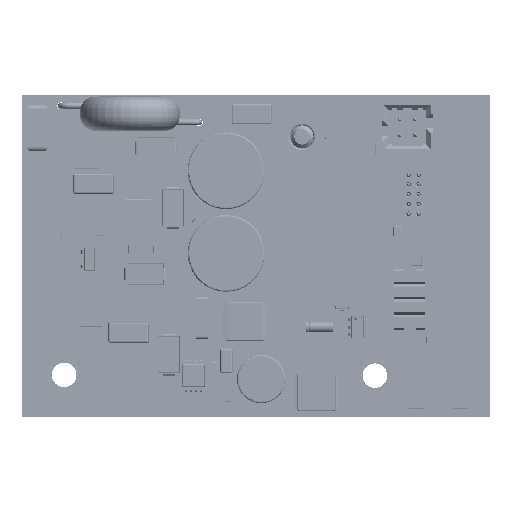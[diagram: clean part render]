
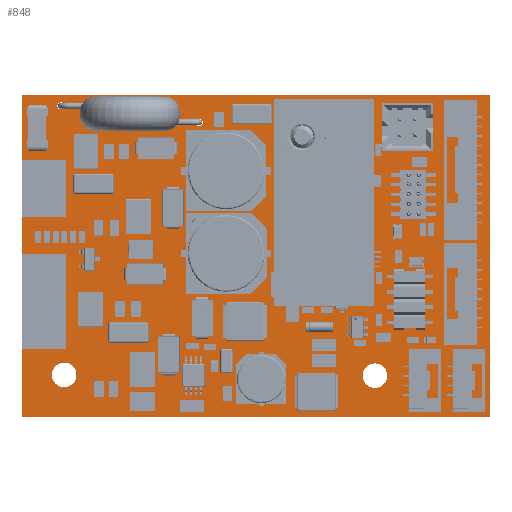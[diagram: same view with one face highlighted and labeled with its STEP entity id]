
A CAD part, top view. The second image highlights one B-rep face of the part: STEP entity #848.
In plain terms, the highlighted planar face has unit normal (0, 0, 1).
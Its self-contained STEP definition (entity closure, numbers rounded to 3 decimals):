
#73=DIRECTION('',(0.,1.,0.));
#74=VECTOR('',#73,42.);
#75=CARTESIAN_POINT('',(61.,0.,1.6));
#76=LINE('',#75,#74);
#80=DIRECTION('',(1.,0.,0.));
#81=VECTOR('',#80,61.);
#82=CARTESIAN_POINT('',(0.,0.,1.6));
#83=LINE('',#82,#81);
#87=DIRECTION('',(0.,-1.,0.));
#88=VECTOR('',#87,42.);
#89=CARTESIAN_POINT('',(0.,42.,1.6));
#90=LINE('',#89,#88);
#94=DIRECTION('',(-1.,0.,0.));
#95=VECTOR('',#94,61.);
#96=CARTESIAN_POINT('',(61.,42.,1.6));
#97=LINE('',#96,#95);
#101=CARTESIAN_POINT('',(3.412,13.821,1.6));
#102=DIRECTION('',(0.,0.,1.));
#103=DIRECTION('',(1.,0.,0.));
#104=AXIS2_PLACEMENT_3D('',#101,#102,#103);
#109=CARTESIAN_POINT('',(3.412,13.821,1.6));
#110=DIRECTION('',(0.,0.,1.));
#111=DIRECTION('',(-1.,0.,0.));
#112=AXIS2_PLACEMENT_3D('',#109,#110,#111);
#117=CARTESIAN_POINT('',(3.412,11.321,1.6));
#118=DIRECTION('',(0.,0.,1.));
#119=DIRECTION('',(1.,0.,0.));
#120=AXIS2_PLACEMENT_3D('',#117,#118,#119);
#125=CARTESIAN_POINT('',(3.412,11.321,1.6));
#126=DIRECTION('',(0.,0.,1.));
#127=DIRECTION('',(-1.,0.,0.));
#128=AXIS2_PLACEMENT_3D('',#125,#126,#127);
#133=CARTESIAN_POINT('',(3.387,30.996,1.6));
#134=DIRECTION('',(0.,0.,1.));
#135=DIRECTION('',(1.,0.,0.));
#136=AXIS2_PLACEMENT_3D('',#133,#134,#135);
#141=CARTESIAN_POINT('',(3.387,30.996,1.6));
#142=DIRECTION('',(0.,0.,1.));
#143=DIRECTION('',(-1.,0.,0.));
#144=AXIS2_PLACEMENT_3D('',#141,#142,#143);
#149=CARTESIAN_POINT('',(3.412,16.321,1.6));
#150=DIRECTION('',(0.,0.,1.));
#151=DIRECTION('',(1.,0.,0.));
#152=AXIS2_PLACEMENT_3D('',#149,#150,#151);
#157=CARTESIAN_POINT('',(3.412,16.321,1.6));
#158=DIRECTION('',(0.,0.,1.));
#159=DIRECTION('',(-1.,0.,0.));
#160=AXIS2_PLACEMENT_3D('',#157,#158,#159);
#165=CARTESIAN_POINT('',(3.387,28.496,1.6));
#166=DIRECTION('',(0.,0.,1.));
#167=DIRECTION('',(1.,0.,0.));
#168=AXIS2_PLACEMENT_3D('',#165,#166,#167);
#173=CARTESIAN_POINT('',(3.387,28.496,1.6));
#174=DIRECTION('',(0.,0.,1.));
#175=DIRECTION('',(-1.,0.,0.));
#176=AXIS2_PLACEMENT_3D('',#173,#174,#175);
#181=CARTESIAN_POINT('',(3.412,18.821,1.6));
#182=DIRECTION('',(0.,0.,1.));
#183=DIRECTION('',(1.,0.,0.));
#184=AXIS2_PLACEMENT_3D('',#181,#182,#183);
#189=CARTESIAN_POINT('',(3.412,18.821,1.6));
#190=DIRECTION('',(0.,0.,1.));
#191=DIRECTION('',(-1.,0.,0.));
#192=AXIS2_PLACEMENT_3D('',#189,#190,#191);
#197=CARTESIAN_POINT('',(46.,5.4,1.6));
#198=DIRECTION('',(0.,0.,1.));
#199=DIRECTION('',(1.,0.,0.));
#200=AXIS2_PLACEMENT_3D('',#197,#198,#199);
#205=CARTESIAN_POINT('',(46.,5.4,1.6));
#206=DIRECTION('',(0.,0.,1.));
#207=DIRECTION('',(-1.,0.,0.));
#208=AXIS2_PLACEMENT_3D('',#205,#206,#207);
#213=CARTESIAN_POINT('',(5.5,5.5,1.6));
#214=DIRECTION('',(0.,0.,1.));
#215=DIRECTION('',(1.,0.,0.));
#216=AXIS2_PLACEMENT_3D('',#213,#214,#215);
#221=CARTESIAN_POINT('',(5.5,5.5,1.6));
#222=DIRECTION('',(0.,0.,1.));
#223=DIRECTION('',(-1.,0.,0.));
#224=AXIS2_PLACEMENT_3D('',#221,#222,#223);
#229=CARTESIAN_POINT('',(5.077,40.564,1.6));
#230=DIRECTION('',(0.,0.,1.));
#231=DIRECTION('',(1.,0.,0.));
#232=AXIS2_PLACEMENT_3D('',#229,#230,#231);
#237=CARTESIAN_POINT('',(5.077,40.564,1.6));
#238=DIRECTION('',(0.,0.,1.));
#239=DIRECTION('',(-1.,0.,0.));
#240=AXIS2_PLACEMENT_3D('',#237,#238,#239);
#245=CARTESIAN_POINT('',(36.5,36.5,1.6));
#246=DIRECTION('',(0.,0.,1.));
#247=DIRECTION('',(1.,0.,0.));
#248=AXIS2_PLACEMENT_3D('',#245,#246,#247);
#253=CARTESIAN_POINT('',(36.5,36.5,1.6));
#254=DIRECTION('',(0.,0.,1.));
#255=DIRECTION('',(-1.,0.,0.));
#256=AXIS2_PLACEMENT_3D('',#253,#254,#255);
#261=CARTESIAN_POINT('',(23.077,38.414,1.6));
#262=DIRECTION('',(0.,0.,1.));
#263=DIRECTION('',(1.,0.,0.));
#264=AXIS2_PLACEMENT_3D('',#261,#262,#263);
#269=CARTESIAN_POINT('',(23.077,38.414,1.6));
#270=DIRECTION('',(0.,0.,1.));
#271=DIRECTION('',(-1.,0.,0.));
#272=AXIS2_PLACEMENT_3D('',#269,#270,#271);
#607=CARTESIAN_POINT('',(61.,0.,1.6));
#609=VERTEX_POINT('',#607);
#611=CARTESIAN_POINT('',(61.,42.,1.6));
#612=VERTEX_POINT('',#611);
#615=CARTESIAN_POINT('',(0.,42.,1.6));
#616=VERTEX_POINT('',#615);
#619=CARTESIAN_POINT('',(0.,0.,1.6));
#620=VERTEX_POINT('',#619);
#623=CARTESIAN_POINT('',(2.904,13.821,1.6));
#625=VERTEX_POINT('',#623);
#627=CARTESIAN_POINT('',(3.92,13.821,1.6));
#628=VERTEX_POINT('',#627);
#631=CARTESIAN_POINT('',(2.904,11.321,1.6));
#633=VERTEX_POINT('',#631);
#635=CARTESIAN_POINT('',(3.92,11.321,1.6));
#636=VERTEX_POINT('',#635);
#639=CARTESIAN_POINT('',(2.879,30.996,1.6));
#641=VERTEX_POINT('',#639);
#643=CARTESIAN_POINT('',(3.895,30.996,1.6));
#644=VERTEX_POINT('',#643);
#647=CARTESIAN_POINT('',(2.904,16.321,1.6));
#649=VERTEX_POINT('',#647);
#651=CARTESIAN_POINT('',(3.92,16.321,1.6));
#652=VERTEX_POINT('',#651);
#655=CARTESIAN_POINT('',(2.879,28.496,1.6));
#657=VERTEX_POINT('',#655);
#659=CARTESIAN_POINT('',(3.895,28.496,1.6));
#660=VERTEX_POINT('',#659);
#663=CARTESIAN_POINT('',(2.904,18.821,1.6));
#665=VERTEX_POINT('',#663);
#667=CARTESIAN_POINT('',(3.92,18.821,1.6));
#668=VERTEX_POINT('',#667);
#671=CARTESIAN_POINT('',(44.4,5.4,1.6));
#673=VERTEX_POINT('',#671);
#675=CARTESIAN_POINT('',(47.6,5.4,1.6));
#676=VERTEX_POINT('',#675);
#679=CARTESIAN_POINT('',(3.9,5.5,1.6));
#681=VERTEX_POINT('',#679);
#683=CARTESIAN_POINT('',(7.1,5.5,1.6));
#684=VERTEX_POINT('',#683);
#687=CARTESIAN_POINT('',(4.602,40.564,1.6));
#689=VERTEX_POINT('',#687);
#691=CARTESIAN_POINT('',(5.552,40.564,1.6));
#692=VERTEX_POINT('',#691);
#695=CARTESIAN_POINT('',(34.9,36.5,1.6));
#697=VERTEX_POINT('',#695);
#699=CARTESIAN_POINT('',(38.1,36.5,1.6));
#700=VERTEX_POINT('',#699);
#703=CARTESIAN_POINT('',(22.602,38.414,1.6));
#705=VERTEX_POINT('',#703);
#707=CARTESIAN_POINT('',(23.552,38.414,1.6));
#708=VERTEX_POINT('',#707);
#771=CARTESIAN_POINT('',(61.,0.,1.6));
#772=DIRECTION('',(0.,0.,-1.));
#773=DIRECTION('',(-1.,0.,0.));
#774=AXIS2_PLACEMENT_3D('',#771,#772,#773);
#775=PLANE('',#774);
#776=ORIENTED_EDGE('',*,*,#718,.F.);
#777=ORIENTED_EDGE('',*,*,#734,.F.);
#778=ORIENTED_EDGE('',*,*,#749,.F.);
#779=ORIENTED_EDGE('',*,*,#763,.F.);
#780=EDGE_LOOP('',(#776,#777,#778,#779));
#781=FACE_OUTER_BOUND('',#780,.F.);
#783=ORIENTED_EDGE('',*,*,#782,.T.);
#785=ORIENTED_EDGE('',*,*,#784,.T.);
#786=EDGE_LOOP('',(#783,#785));
#787=FACE_BOUND('',#786,.F.);
#789=ORIENTED_EDGE('',*,*,#788,.T.);
#791=ORIENTED_EDGE('',*,*,#790,.T.);
#792=EDGE_LOOP('',(#789,#791));
#793=FACE_BOUND('',#792,.F.);
#795=ORIENTED_EDGE('',*,*,#794,.T.);
#797=ORIENTED_EDGE('',*,*,#796,.T.);
#798=EDGE_LOOP('',(#795,#797));
#799=FACE_BOUND('',#798,.F.);
#801=ORIENTED_EDGE('',*,*,#800,.T.);
#803=ORIENTED_EDGE('',*,*,#802,.T.);
#804=EDGE_LOOP('',(#801,#803));
#805=FACE_BOUND('',#804,.F.);
#807=ORIENTED_EDGE('',*,*,#806,.T.);
#809=ORIENTED_EDGE('',*,*,#808,.T.);
#810=EDGE_LOOP('',(#807,#809));
#811=FACE_BOUND('',#810,.F.);
#813=ORIENTED_EDGE('',*,*,#812,.T.);
#815=ORIENTED_EDGE('',*,*,#814,.T.);
#816=EDGE_LOOP('',(#813,#815));
#817=FACE_BOUND('',#816,.F.);
#819=ORIENTED_EDGE('',*,*,#818,.T.);
#821=ORIENTED_EDGE('',*,*,#820,.T.);
#822=EDGE_LOOP('',(#819,#821));
#823=FACE_BOUND('',#822,.F.);
#825=ORIENTED_EDGE('',*,*,#824,.T.);
#827=ORIENTED_EDGE('',*,*,#826,.T.);
#828=EDGE_LOOP('',(#825,#827));
#829=FACE_BOUND('',#828,.F.);
#831=ORIENTED_EDGE('',*,*,#830,.T.);
#833=ORIENTED_EDGE('',*,*,#832,.T.);
#834=EDGE_LOOP('',(#831,#833));
#835=FACE_BOUND('',#834,.F.);
#837=ORIENTED_EDGE('',*,*,#836,.T.);
#839=ORIENTED_EDGE('',*,*,#838,.T.);
#840=EDGE_LOOP('',(#837,#839));
#841=FACE_BOUND('',#840,.F.);
#843=ORIENTED_EDGE('',*,*,#842,.T.);
#845=ORIENTED_EDGE('',*,*,#844,.T.);
#846=EDGE_LOOP('',(#843,#845));
#847=FACE_BOUND('',#846,.F.);
#105=CIRCLE('',#104,0.508);
#113=CIRCLE('',#112,0.508);
#121=CIRCLE('',#120,0.508);
#129=CIRCLE('',#128,0.508);
#137=CIRCLE('',#136,0.508);
#145=CIRCLE('',#144,0.508);
#153=CIRCLE('',#152,0.508);
#161=CIRCLE('',#160,0.508);
#169=CIRCLE('',#168,0.508);
#177=CIRCLE('',#176,0.508);
#185=CIRCLE('',#184,0.508);
#193=CIRCLE('',#192,0.508);
#201=CIRCLE('',#200,1.6);
#209=CIRCLE('',#208,1.6);
#217=CIRCLE('',#216,1.6);
#225=CIRCLE('',#224,1.6);
#233=CIRCLE('',#232,0.475);
#241=CIRCLE('',#240,0.475);
#249=CIRCLE('',#248,1.6);
#257=CIRCLE('',#256,1.6);
#265=CIRCLE('',#264,0.475);
#273=CIRCLE('',#272,0.475);
#718=EDGE_CURVE('',#609,#612,#76,.T.);
#734=EDGE_CURVE('',#620,#609,#83,.T.);
#749=EDGE_CURVE('',#616,#620,#90,.T.);
#763=EDGE_CURVE('',#612,#616,#97,.T.);
#782=EDGE_CURVE('',#628,#625,#105,.T.);
#784=EDGE_CURVE('',#625,#628,#113,.T.);
#788=EDGE_CURVE('',#636,#633,#121,.T.);
#790=EDGE_CURVE('',#633,#636,#129,.T.);
#794=EDGE_CURVE('',#644,#641,#137,.T.);
#796=EDGE_CURVE('',#641,#644,#145,.T.);
#800=EDGE_CURVE('',#652,#649,#153,.T.);
#802=EDGE_CURVE('',#649,#652,#161,.T.);
#806=EDGE_CURVE('',#660,#657,#169,.T.);
#808=EDGE_CURVE('',#657,#660,#177,.T.);
#812=EDGE_CURVE('',#668,#665,#185,.T.);
#814=EDGE_CURVE('',#665,#668,#193,.T.);
#818=EDGE_CURVE('',#676,#673,#201,.T.);
#820=EDGE_CURVE('',#673,#676,#209,.T.);
#824=EDGE_CURVE('',#684,#681,#217,.T.);
#826=EDGE_CURVE('',#681,#684,#225,.T.);
#830=EDGE_CURVE('',#692,#689,#233,.T.);
#832=EDGE_CURVE('',#689,#692,#241,.T.);
#836=EDGE_CURVE('',#700,#697,#249,.T.);
#838=EDGE_CURVE('',#697,#700,#257,.T.);
#842=EDGE_CURVE('',#708,#705,#265,.T.);
#844=EDGE_CURVE('',#705,#708,#273,.T.);
#848=ADVANCED_FACE('',(#781,#787,#793,#799,#805,#811,#817,#823,#829,#835,#841,
#847),#775,.F.);
